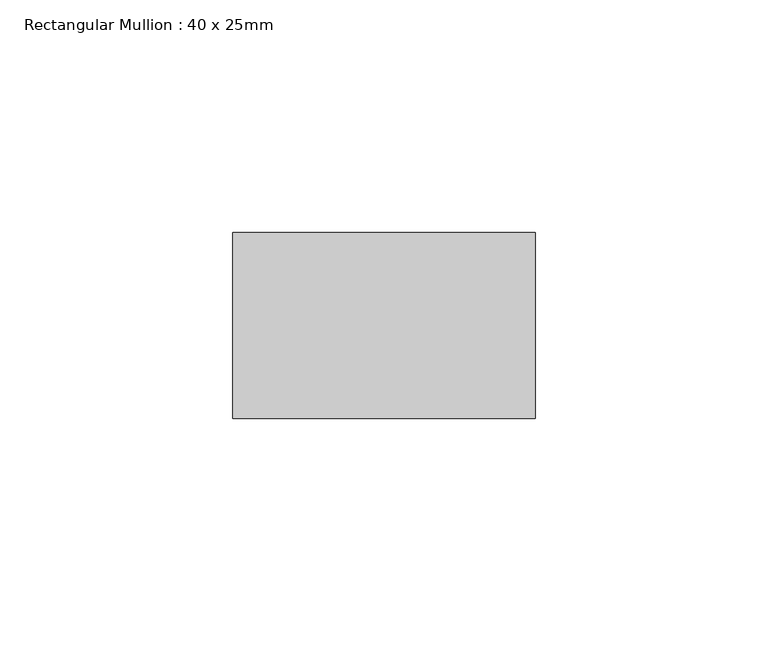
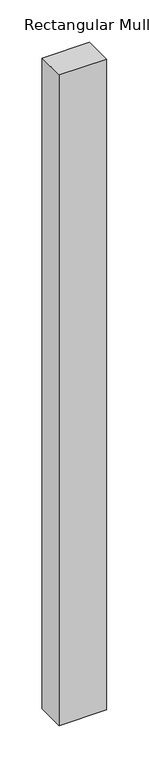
"""IFC4 building model written with IfcOpenShell, lengths in millimetres: member geometry, Rectangular Mullion : 40 x 25mm."""

import ifcopenshell
import ifcopenshell.guid

model = None  # the IFC model being written
_history = None  # IfcOwnerHistory: only IFC2X3 demands one
_inside = {}  # id of a spatial element -> (the spatial element, [elements in it])
_under = {}  # id of a project, library or spatial element -> (it, [spatial elements below it])
_declared = {}  # id of a project -> (the project, [libraries it declares])
_typed = {}  # id of a type object -> (the type object, [elements of that type])
_made_of = {}  # id of a material, layer set ... -> (it, [elements and type objects made of it])


def new_model(schema):
    """Start an empty IFC model of exactly this schema.

    Asked for "IFC4X3", IfcOpenShell would pick the latest addendum, in which some entities
    have other attributes; the version numbers below select the first issue.
    IFC2X3 requires an IfcOwnerHistory on every rooted entity: one is made here for all.
    """
    global model, _history
    if schema == "IFC4X3":
        model = ifcopenshell.file(schema_version=(4, 3, 0, 0))
    else:
        model = ifcopenshell.file(schema=schema)
    _inside.clear()
    _under.clear()
    _declared.clear()
    _typed.clear()
    _made_of.clear()
    _history = None
    if model.schema == "IFC2X3":
        org = make("IfcOrganization", Name="unknown")
        user = make(
            "IfcPersonAndOrganization",
            ThePerson=make("IfcPerson", FamilyName="unknown"),
            TheOrganization=org,
        )
        app = make(
            "IfcApplication",
            ApplicationDeveloper=org,
            Version="unknown",
            ApplicationFullName="unknown",
            ApplicationIdentifier="unknown",
        )
        _history = make(
            "IfcOwnerHistory",
            OwningUser=user,
            OwningApplication=app,
            ChangeAction="ADDED",
            CreationDate=0,
        )
    return model


def make(cls, **values):
    """One entity of the class cls with the attributes given. An attribute that is None is left unset."""
    return model.create_entity(
        cls, **{name: value for name, value in values.items() if value is not None}
    )


def rooted(cls, **values):
    """An entity with a GlobalId (a new one), such as an element, a storey or a relation."""
    return make(cls, GlobalId=ifcopenshell.guid.new(), OwnerHistory=_history, **values)


def si_unit(unit_type, name, prefix=None):
    """IfcSIUnit, for example si_unit("LENGTHUNIT", "METRE", prefix="MILLI")."""
    return make("IfcSIUnit", UnitType=unit_type, Prefix=prefix, Name=name)


def assignment(units):
    """IfcUnitAssignment: the units of a project."""
    return None if units is None else make("IfcUnitAssignment", Units=units)


def point(xyz):
    """IfcCartesianPoint."""
    return None if xyz is None else make("IfcCartesianPoint", Coordinates=xyz)


def direction(xyz):
    """IfcDirection."""
    return None if xyz is None else make("IfcDirection", DirectionRatios=xyz)


def frame(location, z_axis=None, x_axis=None):
    """IfcAxis2Placement3D, a coordinate frame: its origin and axes. An axis left out is left unset."""
    return make(
        "IfcAxis2Placement3D",
        Location=point(location),
        Axis=direction(z_axis),
        RefDirection=direction(x_axis),
    )


def origin():
    """The frame at (0, 0, 0) with its axes left unset."""
    return frame((0.0, 0.0, 0.0))


def place(relative_to, where):
    """IfcLocalPlacement: puts the frame where relative to a parent placement (None: the world)."""
    return make(
        "IfcLocalPlacement", PlacementRelTo=relative_to, RelativePlacement=where
    )


def context(
    kind, dimensions, precision=None, world=None, true_north=None, identifier=None
):
    """IfcGeometricRepresentationContext, for example the 3D "Model" context."""
    return make(
        "IfcGeometricRepresentationContext",
        ContextIdentifier=identifier,
        ContextType=kind,
        CoordinateSpaceDimension=dimensions,
        Precision=precision,
        WorldCoordinateSystem=world,
        TrueNorth=true_north,
    )


def project(units=None, contexts=None):
    """IfcProject with its units and contexts."""
    return rooted(
        "IfcProject",
        Name="project",
        RepresentationContexts=contexts,
        UnitsInContext=assignment(units),
    )


def spatial(cls, under=None, at=None, **own):
    """A site, building, storey or space (cls), placed at a placement, below another one or the project."""
    s = rooted(cls, ObjectPlacement=at, **own)
    if under is not None:
        _under.setdefault(under.id(), (under, []))[1].append(s)
    return s


def polyline(points):
    """IfcPolyline through the points."""
    return make("IfcPolyline", Points=[point(p) for p in points])


def outline(outer, holes=None, kind="AREA"):
    """IfcArbitraryClosedProfileDef: a profile drawn as a closed curve; with holes, ...WithVoids."""
    if holes is None:
        return make("IfcArbitraryClosedProfileDef", ProfileType=kind, OuterCurve=outer)
    return make(
        "IfcArbitraryProfileDefWithVoids",
        ProfileType=kind,
        OuterCurve=outer,
        InnerCurves=holes,
    )


def extrude(swept, where, along, depth):
    """IfcExtrudedAreaSolid: the profile swept, set in the frame where, extruded along a direction by depth."""
    return make(
        "IfcExtrudedAreaSolid",
        SweptArea=swept,
        Position=where,
        ExtrudedDirection=direction(along),
        Depth=depth,
    )


def shape(context_of_items, identifier, shape_type, items):
    """IfcShapeRepresentation: the items that make up one representation, for example the "Body"."""
    return make(
        "IfcShapeRepresentation",
        ContextOfItems=context_of_items,
        RepresentationIdentifier=identifier,
        RepresentationType=shape_type,
        Items=items,
    )


def source(mapping_origin, context_of_items, identifier, shape_type, items):
    """IfcRepresentationMap: a shape defined once, which mapped items show again and again."""
    return make(
        "IfcRepresentationMap",
        MappingOrigin=mapping_origin,
        MappedRepresentation=shape(context_of_items, identifier, shape_type, items),
    )


def transform(
    local_origin,
    x_axis=None,
    y_axis=None,
    z_axis=None,
    scale=None,
    scale2=None,
    scale3=None,
    uniform=True,
):
    """IfcCartesianTransformationOperator3D, or its non-uniform kind. x_axis, y_axis, z_axis: its Axis1, 2, 3."""
    if uniform:
        return make(
            "IfcCartesianTransformationOperator3D",
            Axis1=direction(x_axis),
            Axis2=direction(y_axis),
            LocalOrigin=point(local_origin),
            Scale=scale,
            Axis3=direction(z_axis),
        )
    return make(
        "IfcCartesianTransformationOperator3DnonUniform",
        Axis1=direction(x_axis),
        Axis2=direction(y_axis),
        LocalOrigin=point(local_origin),
        Scale=scale,
        Axis3=direction(z_axis),
        Scale2=scale2,
        Scale3=scale3,
    )


def mapped(mapping_source, mapping_target):
    """IfcMappedItem: shows the shape of a source again, moved by a transform."""
    return make(
        "IfcMappedItem", MappingSource=mapping_source, MappingTarget=mapping_target
    )


def made_of(thing, what):
    """Note that an element or type object is made of a material, layer set ...; save() writes the relation."""
    if what is not None:
        _made_of.setdefault(what.id(), (what, []))[1].append(thing)
    return thing


def element(
    cls,
    number,
    at=None,
    inside=None,
    cuts=None,
    type_object=None,
    material=None,
    context=None,
    identifier="Body",
    shape_type=None,
    held_by="IfcProductDefinitionShape",
    body=None,
    shapes=None,
    **own,
):
    """One element of the class cls, such as IfcWall. Its Tag is "e" and its number.

    at: its placement. inside: the storey or other place that contains it. cuts: it is an
    opening in that element (IfcRelVoidsElement). A single representation is given by context,
    identifier, shape_type and body (its items); several are given by shapes. held_by: the class
    of the entity that holds the representations. save() writes the other relations.
    """
    e = rooted(cls, Tag="e%d" % number, ObjectPlacement=at, **own)
    if body is not None:
        shapes = [shape(context, identifier, shape_type, body)]
    if shapes is not None:
        e.Representation = make(held_by, Representations=shapes)
    if inside is not None:
        _inside.setdefault(inside.id(), (inside, []))[1].append(e)
    if cuts is not None:
        rooted(
            "IfcRelVoidsElement", RelatingBuildingElement=cuts, RelatedOpeningElement=e
        )
    if type_object is not None:
        _typed.setdefault(type_object.id(), (type_object, []))[1].append(e)
    return made_of(e, material)


def aggregate(whole, parts):
    """IfcRelAggregates: a whole, such as a stair, and the parts it consists of."""
    return rooted("IfcRelAggregates", RelatingObject=whole, RelatedObjects=parts)


def save(model, path):
    """Write the relations noted so far, then the file.

    IfcRelAggregates (storeys below a building ...), IfcRelContainedInSpatialStructure (elements
    in a storey), IfcRelDefinesByType, IfcRelAssociatesMaterial and IfcRelDeclares: one each for
    every whole, place, type object, material and project.
    """
    for whole, parts in _under.values():
        aggregate(whole, parts)
    for where, things in _inside.values():
        rooted(
            "IfcRelContainedInSpatialStructure",
            RelatedElements=things,
            RelatingStructure=where,
        )
    for kind, things in _typed.values():
        rooted("IfcRelDefinesByType", RelatedObjects=things, RelatingType=kind)
    for what, things in _made_of.values():
        rooted("IfcRelAssociatesMaterial", RelatedObjects=things, RelatingMaterial=what)
    for by, libraries in _declared.values():
        rooted("IfcRelDeclares", RelatingContext=by, RelatedDefinitions=libraries)
    model.write(path)


def rectangular_mullion_40_x_25mm_62f0c79e(model_context):
    return source(origin(), model_context, "Body", "SweptSolid", [
        extrude(outline(polyline([(40.0, -20.0), (40.0, -60.0), (-25.0, -60.0), (-25.0, -20.0), (40.0, -20.0)])), frame((0.0, 0.0, -940.0), z_axis=(0.0, 0.0, 1.0), x_axis=(1.0, 0.0, 0.0)), (0.0, 0.0, 1.0), 940.0),
    ])


if __name__ == "__main__":
    model = new_model("IFC4")
    model_context = context("Model", 3, world=origin())
    ifc_project = project(units=[si_unit("LENGTHUNIT", "METRE", prefix="MILLI")], contexts=[model_context])
    site = spatial("IfcSite", under=ifc_project)
    building = spatial("IfcBuilding", under=site)
    placement = place(None, origin())
    rectangular_mullion_40_x_25mm_shape = rectangular_mullion_40_x_25mm_62f0c79e(model_context)
    element("IfcMember", 1, ObjectType="Rectangular Mullion : 40 x 25mm", at=placement, inside=building, context=model_context, shape_type="MappedRepresentation", body=[
        mapped(rectangular_mullion_40_x_25mm_shape, transform((0.0, 0.0, 0.0), x_axis=(1.0, 0.0, 0.0), y_axis=(0.0, 1.0, 0.0), z_axis=(0.0, 0.0, 1.0))),
    ])
    save(model, "model.ifc")
